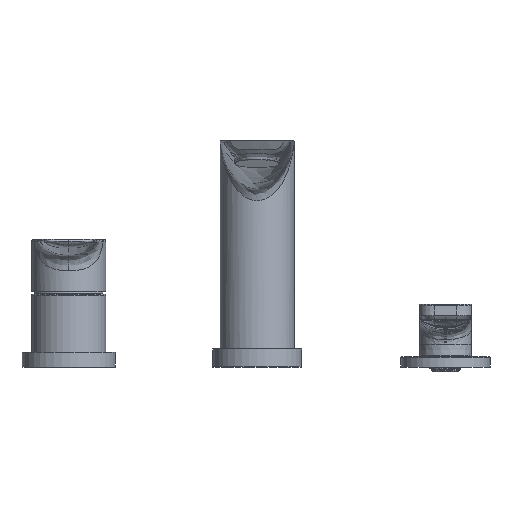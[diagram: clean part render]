
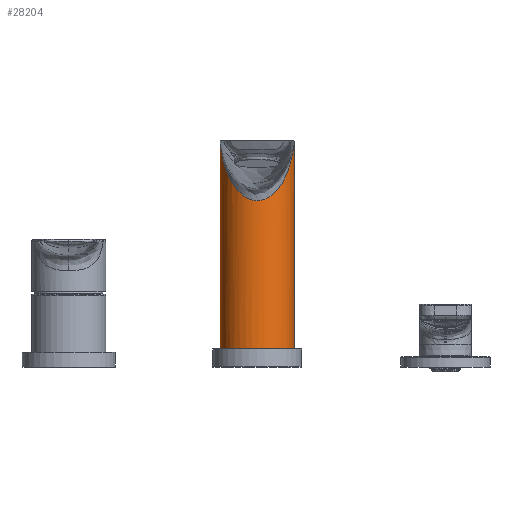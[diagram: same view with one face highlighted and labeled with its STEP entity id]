
A CAD part, top view. The second image highlights one B-rep face of the part: STEP entity #28204.
In plain terms, the highlighted cylindrical face has radius 25 mm (diameter 50 mm), a full revolution.
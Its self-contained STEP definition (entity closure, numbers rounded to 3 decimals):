
#171=CYLINDRICAL_SURFACE('',#30005,25.);
#1494=FACE_BOUND('',#7722,.T.);
#1495=FACE_BOUND('',#7723,.T.);
#4723=CIRCLE('',#29997,25.);
#4727=CIRCLE('',#30006,25.);
#5848=FACE_OUTER_BOUND('',#7721,.T.);
#7721=EDGE_LOOP('',(#19469,#19470,#19471,#19472));
#7722=EDGE_LOOP('',(#19473));
#7723=EDGE_LOOP('',(#19474));
#9595=B_SPLINE_CURVE_WITH_KNOTS('',3,(#78407,#78408,#78409,#78410,#78411,
#78412,#78413,#78414,#78415,#78416,#78417,#78418,#78419,#78420,#78421,#78422,
#78423,#78424,#78425,#78426,#78427,#78428,#78429,#78430,#78431,#78432,#78433,
#78434,#78435,#78436,#78437,#78438,#78439,#78440),.UNSPECIFIED.,.T.,.F.,
(4,2,2,2,2,2,2,2,2,2,2,2,2,2,2,2,4),(0.,0.151,0.302,
0.453,0.604,0.755,0.906,
1.057,1.208,1.359,1.51,1.66,
1.811,1.962,2.113,2.264,2.415),
 .UNSPECIFIED.);
#9596=B_SPLINE_CURVE_WITH_KNOTS('',3,(#78459,#78460,#78461,#78462,#78463),
 .UNSPECIFIED.,.F.,.F.,(4,1,4),(0.,0.08,0.139),
 .UNSPECIFIED.);
#9597=B_SPLINE_CURVE_WITH_KNOTS('',3,(#78465,#78466,#78467,#78468,#78469,
#78470,#78471,#78472,#78473,#78474,#78475,#78476,#78477,#78478,#78479,#78480,
#78481,#78482,#78483,#78484,#78485,#78486,#78487,#78488),.UNSPECIFIED.,
 .F.,.F.,(4,1,1,1,1,1,1,1,1,1,2,1,1,1,1,1,1,1,1,1,4),(-12.865,
-12.635,-12.405,-11.946,-11.027,-10.108,
-8.73,-8.27,-7.351,-6.892,
-6.433,-5.973,-5.514,-4.595,
-3.676,-2.757,-1.838,-0.919,
-0.459,-0.23,0.),.UNSPECIFIED.);
#9598=B_SPLINE_CURVE_WITH_KNOTS('',3,(#78490,#78491,#78492,#78493,#78494),
 .UNSPECIFIED.,.F.,.F.,(4,1,4),(0.,0.06,
0.139),.UNSPECIFIED.);
#11342=VERTEX_POINT('',#78406);
#11344=VERTEX_POINT('',#78444);
#11348=VERTEX_POINT('',#78457);
#11349=VERTEX_POINT('',#78458);
#11350=VERTEX_POINT('',#78464);
#11351=VERTEX_POINT('',#78489);
#14257=EDGE_CURVE('',#11342,#11342,#9595,.T.);
#14259=EDGE_CURVE('',#11344,#11344,#4723,.T.);
#14263=EDGE_CURVE('',#11348,#11349,#9596,.T.);
#14264=EDGE_CURVE('',#11350,#11348,#9597,.T.);
#14265=EDGE_CURVE('',#11351,#11350,#9598,.T.);
#14266=EDGE_CURVE('',#11349,#11351,#4727,.T.);
#19469=ORIENTED_EDGE('',*,*,#14263,.F.);
#19470=ORIENTED_EDGE('',*,*,#14264,.F.);
#19471=ORIENTED_EDGE('',*,*,#14265,.F.);
#19472=ORIENTED_EDGE('',*,*,#14266,.F.);
#19473=ORIENTED_EDGE('',*,*,#14257,.T.);
#19474=ORIENTED_EDGE('',*,*,#14259,.T.);
#28204=ADVANCED_FACE('',(#5848,#1494,#1495),#171,.T.);
#29997=AXIS2_PLACEMENT_3D('',#78445,#32925,#32926);
#30005=AXIS2_PLACEMENT_3D('',#78456,#32941,#32942);
#30006=AXIS2_PLACEMENT_3D('',#78495,#32943,#32944);
#32925=DIRECTION('center_axis',(0.,1.,0.));
#32926=DIRECTION('ref_axis',(-1.,0.,0.));
#32941=DIRECTION('center_axis',(0.,1.,0.));
#32942=DIRECTION('ref_axis',(-1.,0.,0.));
#32943=DIRECTION('center_axis',(0.,1.,0.));
#32944=DIRECTION('ref_axis',(0.,0.,
-1.));
#78406=CARTESIAN_POINT('',(-4.,45.,-24.678));
#78407=CARTESIAN_POINT('Ctrl Pts',(-4.,45.,-24.678));
#78408=CARTESIAN_POINT('Ctrl Pts',(-4.,44.497,-24.678));
#78409=CARTESIAN_POINT('Ctrl Pts',(-3.899,43.961,-24.695));
#78410=CARTESIAN_POINT('Ctrl Pts',(-3.491,42.975,-24.756));
#78411=CARTESIAN_POINT('Ctrl Pts',(-3.183,42.526,-24.799));
#78412=CARTESIAN_POINT('Ctrl Pts',(-2.474,41.817,-24.88));
#78413=CARTESIAN_POINT('Ctrl Pts',(-2.025,41.509,-24.923));
#78414=CARTESIAN_POINT('Ctrl Pts',(-1.039,41.101,-24.983));
#78415=CARTESIAN_POINT('Ctrl Pts',(-0.503,41.,
-25.));
#78416=CARTESIAN_POINT('Ctrl Pts',(0.503,41.,-25.));
#78417=CARTESIAN_POINT('Ctrl Pts',(1.039,41.101,-24.983));
#78418=CARTESIAN_POINT('Ctrl Pts',(2.025,41.509,-24.923));
#78419=CARTESIAN_POINT('Ctrl Pts',(2.474,41.817,-24.88));
#78420=CARTESIAN_POINT('Ctrl Pts',(3.183,42.526,-24.799));
#78421=CARTESIAN_POINT('Ctrl Pts',(3.491,42.975,-24.756));
#78422=CARTESIAN_POINT('Ctrl Pts',(3.899,43.961,-24.695));
#78423=CARTESIAN_POINT('Ctrl Pts',(4.,44.497,-24.678));
#78424=CARTESIAN_POINT('Ctrl Pts',(4.,45.503,-24.678));
#78425=CARTESIAN_POINT('Ctrl Pts',(3.899,46.039,-24.695));
#78426=CARTESIAN_POINT('Ctrl Pts',(3.491,47.025,-24.756));
#78427=CARTESIAN_POINT('Ctrl Pts',(3.183,47.474,-24.799));
#78428=CARTESIAN_POINT('Ctrl Pts',(2.474,48.183,-24.88));
#78429=CARTESIAN_POINT('Ctrl Pts',(2.025,48.491,-24.923));
#78430=CARTESIAN_POINT('Ctrl Pts',(1.039,48.899,-24.983));
#78431=CARTESIAN_POINT('Ctrl Pts',(0.503,49.,-25.));
#78432=CARTESIAN_POINT('Ctrl Pts',(-0.503,49.,
-25.));
#78433=CARTESIAN_POINT('Ctrl Pts',(-1.039,48.899,-24.983));
#78434=CARTESIAN_POINT('Ctrl Pts',(-2.025,48.491,-24.923));
#78435=CARTESIAN_POINT('Ctrl Pts',(-2.474,48.183,-24.88));
#78436=CARTESIAN_POINT('Ctrl Pts',(-3.183,47.474,-24.799));
#78437=CARTESIAN_POINT('Ctrl Pts',(-3.491,47.025,-24.756));
#78438=CARTESIAN_POINT('Ctrl Pts',(-3.899,46.039,-24.695));
#78439=CARTESIAN_POINT('Ctrl Pts',(-4.,45.503,-24.678));
#78440=CARTESIAN_POINT('Ctrl Pts',(-4.,45.,-24.678));
#78444=CARTESIAN_POINT('',(25.,12.5,0.));
#78445=CARTESIAN_POINT('Origin',(0.,12.5,
0.));
#78456=CARTESIAN_POINT('Origin',(0.,37.5,
0.));
#78457=CARTESIAN_POINT('',(24.916,151.302,2.045));
#78458=CARTESIAN_POINT('',(24.965,152.25,1.321));
#78459=CARTESIAN_POINT('Ctrl Pts',(24.916,151.302,2.045));
#78460=CARTESIAN_POINT('Ctrl Pts',(24.93,151.441,1.875));
#78461=CARTESIAN_POINT('Ctrl Pts',(24.951,151.691,1.584));
#78462=CARTESIAN_POINT('Ctrl Pts',(24.965,152.051,1.321));
#78463=CARTESIAN_POINT('Ctrl Pts',(24.965,152.25,1.321));
#78464=CARTESIAN_POINT('',(-24.916,151.302,2.045));
#78465=CARTESIAN_POINT('Ctrl Pts',(-24.916,151.302,2.045));
#78466=CARTESIAN_POINT('Ctrl Pts',(-24.876,150.899,2.537));
#78467=CARTESIAN_POINT('Ctrl Pts',(-24.775,149.912,3.425));
#78468=CARTESIAN_POINT('Ctrl Pts',(-24.514,147.674,5.015));
#78469=CARTESIAN_POINT('Ctrl Pts',(-23.915,143.511,7.516));
#78470=CARTESIAN_POINT('Ctrl Pts',(-22.664,137.481,10.859));
#78471=CARTESIAN_POINT('Ctrl Pts',(-19.936,129.241,15.461));
#78472=CARTESIAN_POINT('Ctrl Pts',(-16.435,122.781,19.13));
#78473=CARTESIAN_POINT('Ctrl Pts',(-11.713,117.271,22.232));
#78474=CARTESIAN_POINT('Ctrl Pts',(-7.921,114.278,23.892));
#78475=CARTESIAN_POINT('Ctrl Pts',(-3.489,112.554,24.836));
#78476=CARTESIAN_POINT('Ctrl Pts',(-1.17,112.253,25.));
#78477=CARTESIAN_POINT('Ctrl Pts',(1.17,112.253,25.));
#78478=CARTESIAN_POINT('Ctrl Pts',(3.506,112.558,24.834));
#78479=CARTESIAN_POINT('Ctrl Pts',(7.915,114.277,23.893));
#78480=CARTESIAN_POINT('Ctrl Pts',(12.659,118.02,21.817));
#78481=CARTESIAN_POINT('Ctrl Pts',(17.044,123.834,18.53));
#78482=CARTESIAN_POINT('Ctrl Pts',(20.319,130.386,14.822));
#78483=CARTESIAN_POINT('Ctrl Pts',(22.663,137.48,10.858));
#78484=CARTESIAN_POINT('Ctrl Pts',(23.918,143.518,7.512));
#78485=CARTESIAN_POINT('Ctrl Pts',(24.515,147.68,5.011));
#78486=CARTESIAN_POINT('Ctrl Pts',(24.774,149.907,3.429));
#78487=CARTESIAN_POINT('Ctrl Pts',(24.876,150.899,2.537));
#78488=CARTESIAN_POINT('Ctrl Pts',(24.916,151.302,2.045));
#78489=CARTESIAN_POINT('',(-24.965,152.25,1.321));
#78490=CARTESIAN_POINT('Ctrl Pts',(-24.965,152.25,1.321));
#78491=CARTESIAN_POINT('Ctrl Pts',(-24.965,152.051,1.321));
#78492=CARTESIAN_POINT('Ctrl Pts',(-24.951,151.691,1.584));
#78493=CARTESIAN_POINT('Ctrl Pts',(-24.93,151.441,1.875));
#78494=CARTESIAN_POINT('Ctrl Pts',(-24.916,151.302,2.045));
#78495=CARTESIAN_POINT('Origin',(0.,152.25,0.));
